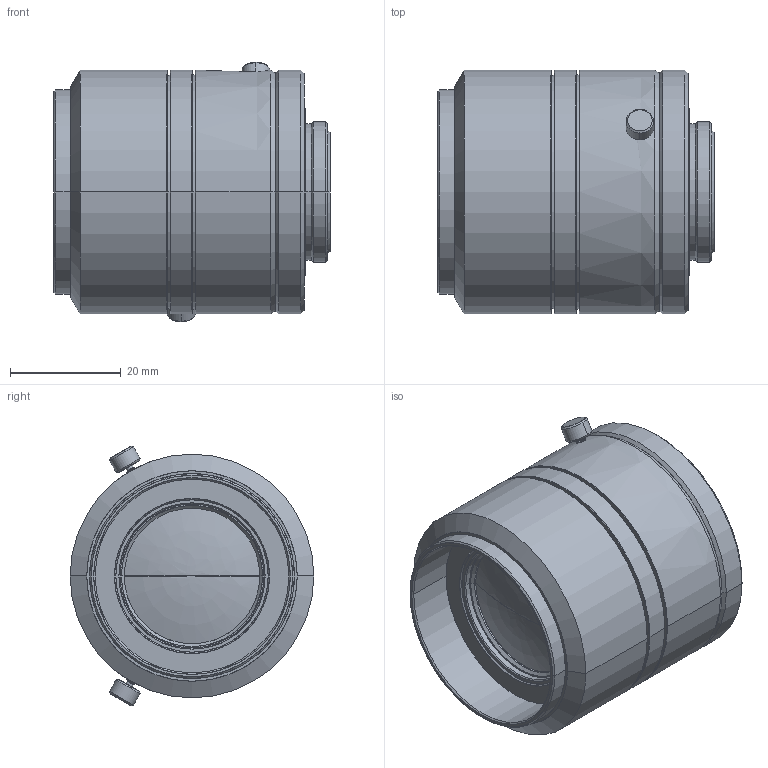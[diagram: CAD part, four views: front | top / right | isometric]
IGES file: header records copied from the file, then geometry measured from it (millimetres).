
Start section: SolidWorks IGES file using analytic representation for surfaces
Global section: file name: \\192.168.1.203\Development\06 俠俠俿倁儗儞僘\02 SV-H series\035 SV-3514H\3D\SV-3514H.IGS; native system: SolidWorks 2012; preprocessor: SolidWorks 2012; author: a-3DCAD2; date: 120601.165028; units: millimetre
Bounding box: 49.91 x 44 x 46.89 mm (x, y, z)
Surface area: 11128.2 mm2 (no closed solid volume)
Topology: 0 solids, 0 shells, 114 faces, 2152 edges, 2150 vertices
Faces by surface type: revolution 96, bspline 18
